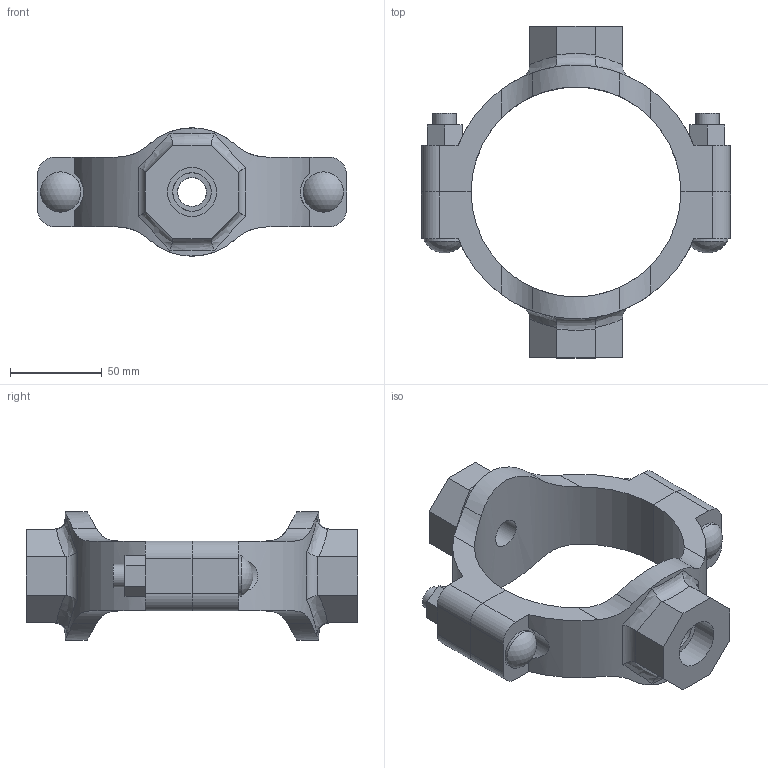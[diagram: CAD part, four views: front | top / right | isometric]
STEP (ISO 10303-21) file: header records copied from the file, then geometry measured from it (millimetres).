
FILE_DESCRIPTION(/* description */ ('VIC MECH-T BRANCH OUTLET CROSS STYLE 920N (THD)','CAx-IF Rec.Pracs.---Representation and Presentation of Product Manufacturing Information (PMI)---4.0---2014-10-13'),/* implementation_level */ '2;1');
FILE_NAME(/* name */ 'C:\Users\Vjadhav\AppData\Roaming\Autodesk\ApplicationPlugins\Back Up\Victaulic_IPS_Mechanical-Cross Outlet_Style 920N (FPT)\Victaulic_IPS_Mechanical-Cross Outlet_04.0x0.5x0.75 (100x15x20).stp',/* time_stamp */ '2020-08-06T18:57:54+05:00',/* author */ ('Vjadhav'),/* organization */ ('Victaulic'),/* preprocessor_version */ 'ST-DEVELOPER v17.2',/* originating_system */ 'Autodesk Inventor 2019',/* authorisation */ '');
FILE_SCHEMA (('AP242_MANAGED_MODEL_BASED_3D_ENGINEERING_MIM_LF { 1 0 10303 442 1 1 4 }'));
Length unit declared in the file: inch
Products named in the file (3): 920NT-04.0x0.5x0.75; 920NT-04.0x0.5; 920NT-04.0x0.75
Assembly tree (2 placements, depth 2):
  920NT-04.0x0.5x0.75
    920NT-04.0x0.5
    920NT-04.0x0.75
Bounding box: 168.4 x 180.85 x 69.82 mm (x, y, z)
Volume: 349978.5 mm3; surface area: 78229 mm2
Topology: 2 solids, 2 shells, 132 faces, 350 edges, 236 vertices
Faces by surface type: plane 68, cylinder 50, bspline 8, torus 4, sphere 2
Full cylindrical faces by diameter (mm): 12.7 x4, 15.799 x1, 20.93 x1, 21.336 x1, 21.982 x2, 26.67 x1
Entity records: 5234 total; most frequent: CARTESIAN_POINT 1721, ORIENTED_EDGE 700, DIRECTION 648, EDGE_CURVE 350, VERTEX_POINT 236, AXIS2_PLACEMENT_3D 231, LINE 186, VECTOR 186
